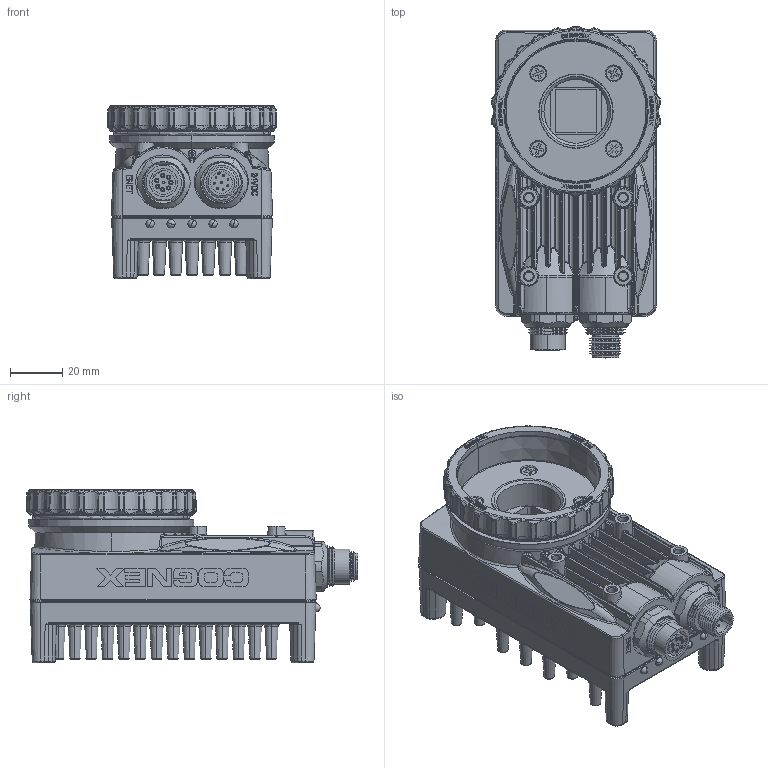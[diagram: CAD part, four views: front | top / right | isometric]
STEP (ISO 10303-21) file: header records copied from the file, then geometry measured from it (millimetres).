
FILE_DESCRIPTION (( 'STEP AP214' ), '1' );
FILE_NAME ('IS006-07_6-16-10.STEP', '2010-06-16T22:28:41', ( '' ), ( '' ), 'SwSTEP 2.0', 'SolidWorks 2010', '' );
FILE_SCHEMA (( 'AUTOMOTIVE_DESIGN' ));
Length unit declared in the file: millimetre
Products named in the file (1): IS006-07_6-16-10
Bounding box: 64.71 x 126.66 x 66.36 mm (x, y, z)
Volume: 230942.4 mm3; surface area: 73384 mm2
Topology: 2 solids, 16 shells, 4074 faces, 10465 edges, 6504 vertices
Faces by surface type: plane 1564, bspline 931, cone 590, cylinder 473, torus 470, sphere 46
Entity records: 176665 total; most frequent: CARTESIAN_POINT 61953, ORIENTED_EDGE 20818, DIRECTION 17351, EDGE_CURVE 10409, VERTEX_POINT 6494, AXIS2_PLACEMENT_3D 6277, VECTOR 4797, LINE 4797
